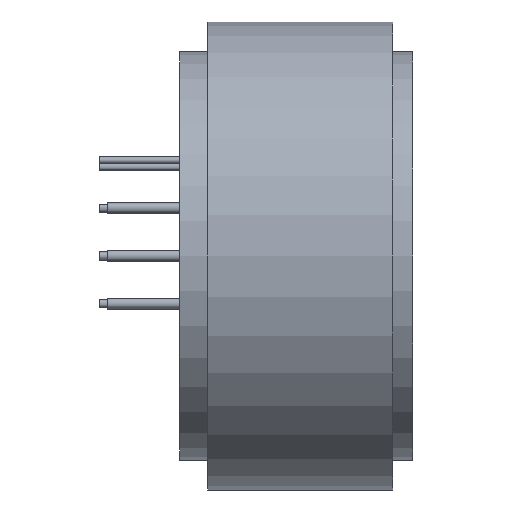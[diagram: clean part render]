
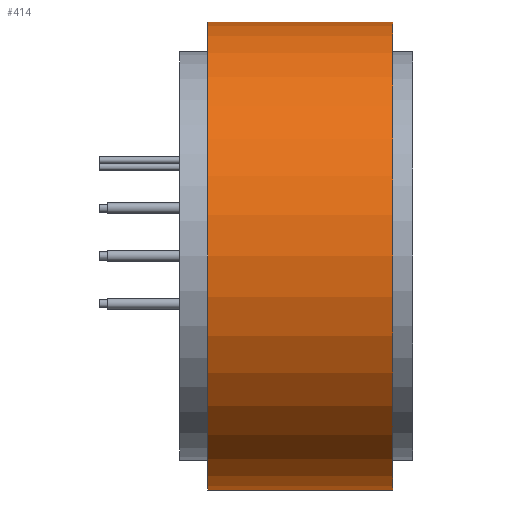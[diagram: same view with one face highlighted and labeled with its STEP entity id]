
A CAD part, left-side view. The second image highlights one B-rep face of the part: STEP entity #414.
In plain terms, the highlighted cylindrical face has radius 29.1 mm (diameter 58.2 mm), a partial arc.
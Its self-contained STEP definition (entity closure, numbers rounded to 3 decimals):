
#108 = ORIENTED_EDGE ( 'NONE', *, *, #181, .T. ) ;
#160 = EDGE_LOOP ( 'NONE', ( #1125, #882, #302, #108 ) ) ;
#172 = DIRECTION ( 'NONE',  ( 0., 0., 1. ) ) ;
#181 = EDGE_CURVE ( 'NONE', #1153, #619, #1286, .T. ) ;
#189 = CARTESIAN_POINT ( 'NONE',  ( 0., 23., -29.1 ) ) ;
#254 = CARTESIAN_POINT ( 'NONE',  ( 0., 0., 29.1 ) ) ;
#283 = DIRECTION ( 'NONE',  ( 0., 1., 0. ) ) ;
#302 = ORIENTED_EDGE ( 'NONE', *, *, #1356, .T. ) ;
#349 = FACE_OUTER_BOUND ( 'NONE', #160, .T. ) ;
#378 = CYLINDRICAL_SURFACE ( 'NONE', #1183, 29.1 ) ;
#414 = ADVANCED_FACE ( 'NONE', ( #349 ), #378, .T. ) ;
#459 = EDGE_CURVE ( 'NONE', #664, #619, #1011, .T. ) ;
#472 = DIRECTION ( 'NONE',  ( 0., 1., 0. ) ) ;
#485 = CARTESIAN_POINT ( 'NONE',  ( 0., 23., 0. ) ) ;
#487 = DIRECTION ( 'NONE',  ( 0., -1., 0. ) ) ;
#498 = VECTOR ( 'NONE', #487, 1000. ) ;
#529 = AXIS2_PLACEMENT_3D ( 'NONE', #1689, #283, #172 ) ;
#619 = VERTEX_POINT ( 'NONE', #254 ) ;
#644 = AXIS2_PLACEMENT_3D ( 'NONE', #485, #472, #1526 ) ;
#664 = VERTEX_POINT ( 'NONE', #1090 ) ;
#710 = DIRECTION ( 'NONE',  ( 0., -1., 0. ) ) ;
#769 = CARTESIAN_POINT ( 'NONE',  ( 0., 23., 29.1 ) ) ;
#777 = EDGE_CURVE ( 'NONE', #1642, #664, #1158, .T. ) ;
#866 = DIRECTION ( 'NONE',  ( 0., 0., -1. ) ) ;
#882 = ORIENTED_EDGE ( 'NONE', *, *, #777, .F. ) ;
#1011 = LINE ( 'NONE', #769, #498 ) ;
#1090 = CARTESIAN_POINT ( 'NONE',  ( 0., 23., 29.1 ) ) ;
#1125 = ORIENTED_EDGE ( 'NONE', *, *, #459, .F. ) ;
#1153 = VERTEX_POINT ( 'NONE', #1453 ) ;
#1158 = CIRCLE ( 'NONE', #644, 29.1 ) ;
#1183 = AXIS2_PLACEMENT_3D ( 'NONE', #1252, #1538, #866 ) ;
#1252 = CARTESIAN_POINT ( 'NONE',  ( 0., 23., 0. ) ) ;
#1286 = CIRCLE ( 'NONE', #529, 29.1 ) ;
#1356 = EDGE_CURVE ( 'NONE', #1642, #1153, #1357, .T. ) ;
#1357 = LINE ( 'NONE', #189, #1601 ) ;
#1453 = CARTESIAN_POINT ( 'NONE',  ( 0., 0., -29.1 ) ) ;
#1526 = DIRECTION ( 'NONE',  ( 0., 0., 1. ) ) ;
#1538 = DIRECTION ( 'NONE',  ( 0., -1., 0. ) ) ;
#1601 = VECTOR ( 'NONE', #710, 1000. ) ;
#1623 = CARTESIAN_POINT ( 'NONE',  ( 0., 23., -29.1 ) ) ;
#1642 = VERTEX_POINT ( 'NONE', #1623 ) ;
#1689 = CARTESIAN_POINT ( 'NONE',  ( 0., 0., 0. ) ) ;
